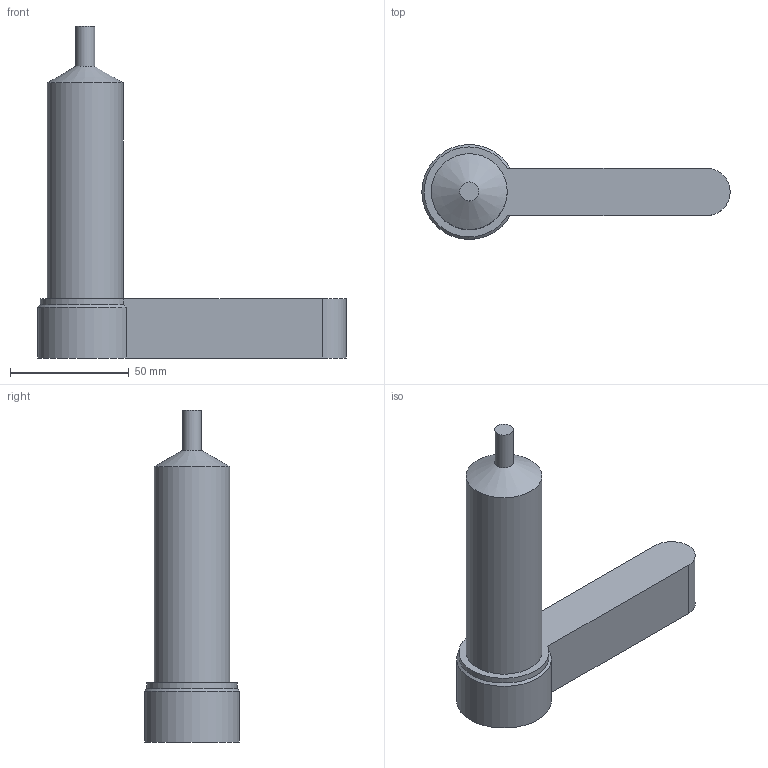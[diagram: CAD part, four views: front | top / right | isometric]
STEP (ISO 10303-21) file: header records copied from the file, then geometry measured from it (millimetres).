
FILE_DESCRIPTION( ( 'STEP AP214' ), '1' );
FILE_NAME( '//Server-yudoeu/YUDO-EU/Production YUDO EU/CAD-Gen/Blocos/Blocos 2D/Ficheiros 3D/BIS/BIS18TLC125/BIS18TLC125_cut-out.step', ' ', ( ' ' ), ( ' ' ), 'PSStep 10.0', ' ', ' ' );
FILE_SCHEMA( ( 'automotive_design' ) );
Length unit declared in the file: millimetre
Products named in the file (1): Cut-out
Bounding box: 130 x 40 x 140 mm (x, y, z)
Volume: 152008.2 mm3; surface area: 23227.2 mm2
Topology: 1 solids, 1 shells, 13 faces, 29 edges, 19 vertices
Faces by surface type: cylinder 6, plane 5, cone 2
Full cylindrical faces by diameter (mm): 8 x1, 32 x1
Entity records: 466 total; most frequent: CARTESIAN_POINT 63, DIRECTION 63, ORIENTED_EDGE 50, AXIS2_PLACEMENT_3D 26, EDGE_CURVE 25, VERTEX_POINT 18, EDGE_LOOP 17, FACE_OUTER_BOUND 15
